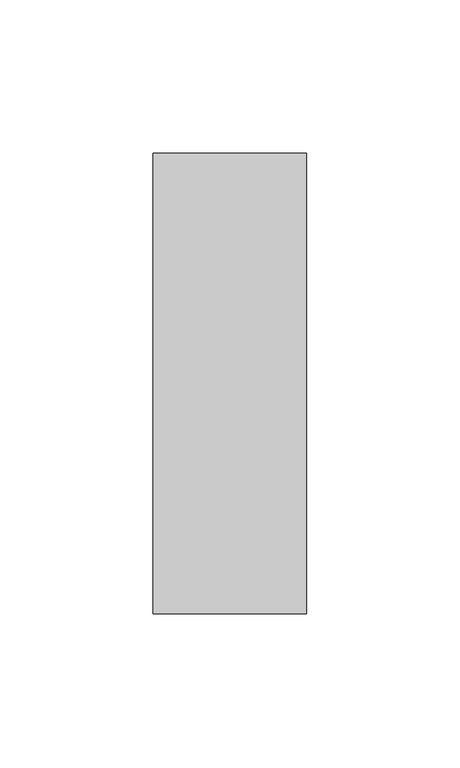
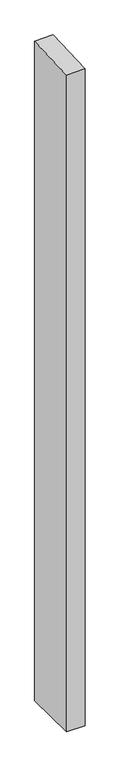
"""IFC4 building model written with IfcOpenShell, lengths in millimetres: member geometry, Прямоугольный импост : 50 x 150 мм."""

from ifc_helpers import new_model, si_unit, origin, place, context, project, spatial, faceted_brep, source, transform, mapped, element, save


def member_a4aea32c(model_context):
    return source(origin(), model_context, "Body", "Brep", [
        faceted_brep([(-25.0, 75.0, 2.029774), (25.0, 75.0, 3.273207), (25.0, 75.0, -1882.1015627), (-25.0, 75.0, -1881.0631707), (-25.0, -75.0, -3.273207), (-25.0, -75.0, -1878.2041987), (25.0, -75.0, -2.029774), (25.0, -75.0, -1879.2425907)], [[[0, 1, 2, 3]], [[4, 0, 3, 5]], [[6, 4, 5, 7]], [[1, 6, 7, 2]], [[1, 0, 4, 6]], [[2, 7, 5, 3]]]),
    ])


if __name__ == "__main__":
    model = new_model("IFC4")
    model_context = context("Model", 3, world=origin())
    ifc_project = project(units=[si_unit("LENGTHUNIT", "METRE", prefix="MILLI")], contexts=[model_context])
    site = spatial("IfcSite", under=ifc_project)
    building = spatial("IfcBuilding", under=site)
    placement = place(None, origin())
    member_shape = member_a4aea32c(model_context)
    element("IfcMember", 1, ObjectType="Прямоугольный импост : 50 x 150 мм", at=placement, inside=building, context=model_context, shape_type="MappedRepresentation", body=[
        mapped(member_shape, transform((0.0, 0.0, 0.0), x_axis=(1.0, 0.0, 0.0), y_axis=(0.0, 1.0, 0.0), z_axis=(0.0, 0.0, 1.0))),
    ])
    save(model, "model.ifc")
